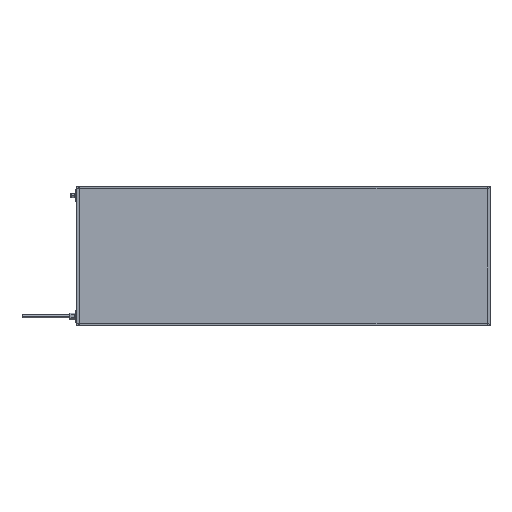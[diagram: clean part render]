
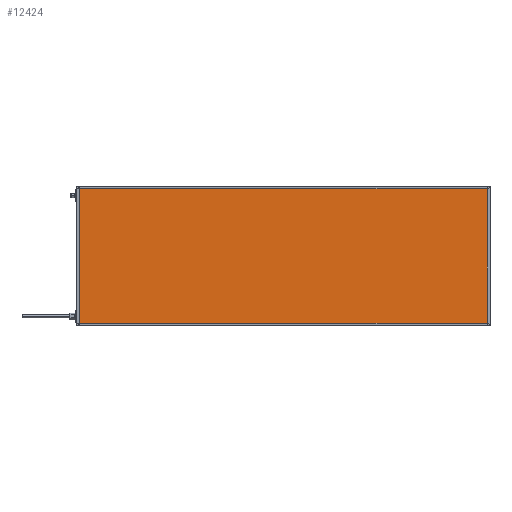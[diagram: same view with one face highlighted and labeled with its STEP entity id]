
A CAD part, top view. The second image highlights one B-rep face of the part: STEP entity #12424.
In plain terms, the highlighted planar face has unit normal (0, 0, 1).
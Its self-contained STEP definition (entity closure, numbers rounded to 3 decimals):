
#196 = CARTESIAN_POINT ( 'NONE',  ( 0., 0., 41.85 ) ) ;
#308 = LINE ( 'NONE', #11145, #7675 ) ;
#616 = EDGE_CURVE ( 'NONE', #2324, #17460, #16510, .T. ) ;
#1014 = CARTESIAN_POINT ( 'NONE',  ( 4., 396., 41.85 ) ) ;
#1495 = VECTOR ( 'NONE', #6814, 1000. ) ;
#2324 = VERTEX_POINT ( 'NONE', #15243 ) ;
#2469 = DIRECTION ( 'NONE',  ( 0., 1., 0. ) ) ;
#3036 = VECTOR ( 'NONE', #2469, 1000. ) ;
#4111 = CARTESIAN_POINT ( 'NONE',  ( 0., 396., 41.85 ) ) ;
#4658 = DIRECTION ( 'NONE',  ( 0., 0., -1. ) ) ;
#4744 = FACE_OUTER_BOUND ( 'NONE', #8832, .T. ) ;
#5082 = AXIS2_PLACEMENT_3D ( 'NONE', #196, #4658, #6114 ) ;
#5282 = EDGE_CURVE ( 'NONE', #13603, #5803, #8369, .T. ) ;
#5475 = CARTESIAN_POINT ( 'NONE',  ( 1196., 0., 41.85 ) ) ;
#5653 = ORIENTED_EDGE ( 'NONE', *, *, #5282, .T. ) ;
#5803 = VERTEX_POINT ( 'NONE', #8730 ) ;
#6114 = DIRECTION ( 'NONE',  ( -1., 0., 0. ) ) ;
#6259 = EDGE_CURVE ( 'NONE', #17460, #13603, #12223, .T. ) ;
#6814 = DIRECTION ( 'NONE',  ( 0., -1., 0. ) ) ;
#7675 = VECTOR ( 'NONE', #16727, 1000. ) ;
#8036 = DIRECTION ( 'NONE',  ( -1., 0., 0. ) ) ;
#8191 = VECTOR ( 'NONE', #8036, 1000. ) ;
#8369 = LINE ( 'NONE', #11096, #1495 ) ;
#8670 = PLANE ( 'NONE',  #5082 ) ;
#8714 = EDGE_CURVE ( 'NONE', #5803, #2324, #308, .T. ) ;
#8730 = CARTESIAN_POINT ( 'NONE',  ( 4., 4., 41.85 ) ) ;
#8832 = EDGE_LOOP ( 'NONE', ( #12104, #13391, #5653, #14927 ) ) ;
#11096 = CARTESIAN_POINT ( 'NONE',  ( 4., 0., 41.85 ) ) ;
#11145 = CARTESIAN_POINT ( 'NONE',  ( 0., 4., 41.85 ) ) ;
#12104 = ORIENTED_EDGE ( 'NONE', *, *, #616, .T. ) ;
#12223 = LINE ( 'NONE', #4111, #8191 ) ;
#12424 = ADVANCED_FACE ( 'NONE', ( #4744 ), #8670, .F. ) ;
#13391 = ORIENTED_EDGE ( 'NONE', *, *, #6259, .T. ) ;
#13603 = VERTEX_POINT ( 'NONE', #1014 ) ;
#14927 = ORIENTED_EDGE ( 'NONE', *, *, #8714, .T. ) ;
#15243 = CARTESIAN_POINT ( 'NONE',  ( 1196., 4., 41.85 ) ) ;
#16510 = LINE ( 'NONE', #5475, #3036 ) ;
#16727 = DIRECTION ( 'NONE',  ( 1., 0., 0. ) ) ;
#17460 = VERTEX_POINT ( 'NONE', #17672 ) ;
#17672 = CARTESIAN_POINT ( 'NONE',  ( 1196., 396., 41.85 ) ) ;
